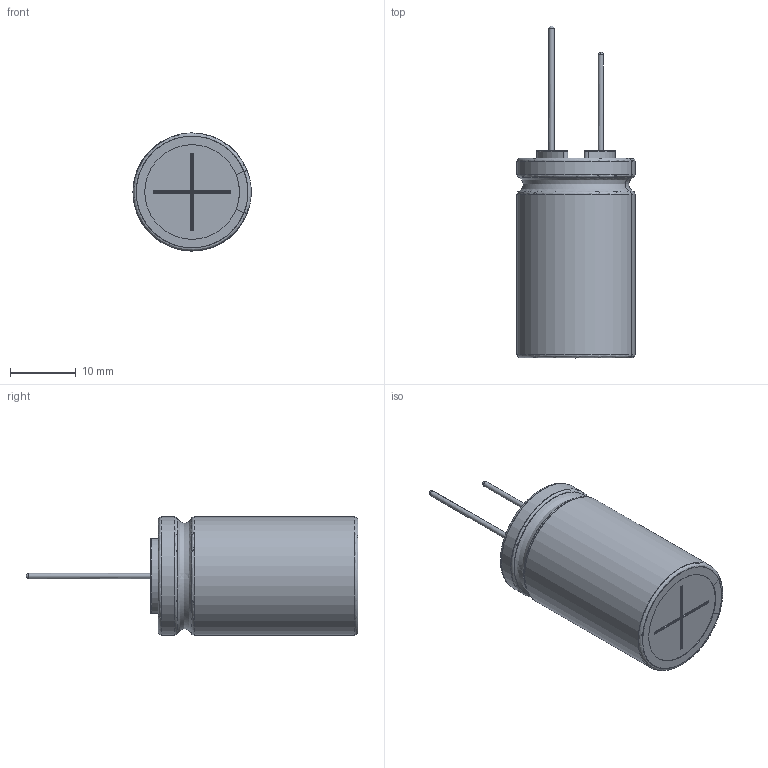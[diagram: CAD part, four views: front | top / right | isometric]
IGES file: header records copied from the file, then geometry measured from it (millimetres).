
Start section: JAMA-IS VERSION  1.0
Bounding box: 17.97 x 50.5 x 18 mm (x, y, z)
Surface area: 6183 mm2 (no closed solid volume)
Topology: 0 solids, 0 shells, 132 faces, 1531 edges, 1512 vertices
Faces by surface type: bspline 132
